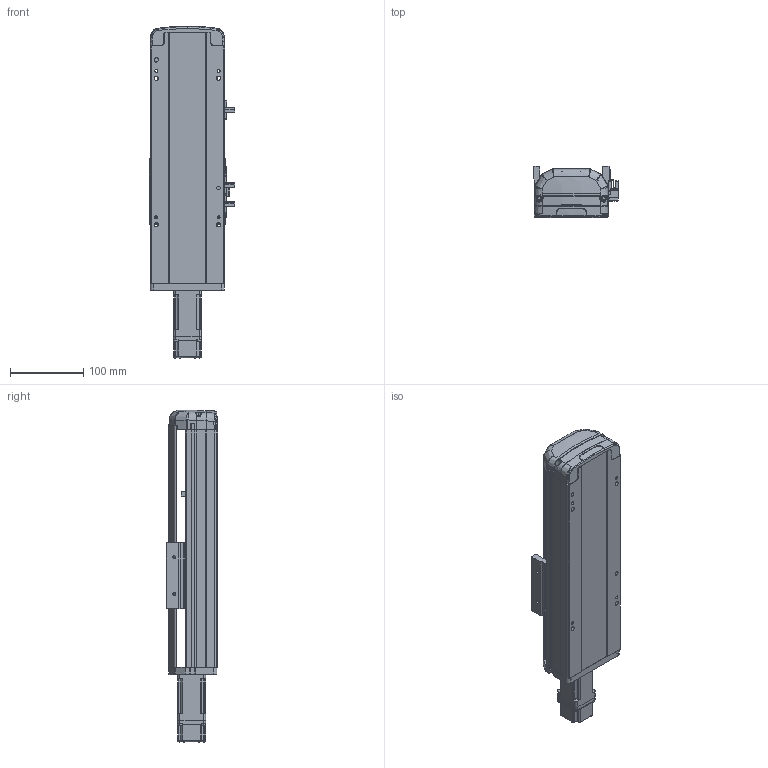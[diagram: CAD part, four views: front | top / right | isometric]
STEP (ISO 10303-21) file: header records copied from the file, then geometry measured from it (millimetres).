
FILE_DESCRIPTION (( 'STEP AP214' ), '1' );
FILE_NAME ('RTH10-XX-100-E-M10-C4.STEP', '2025-10-25T05:20:40', ( 'Microsoft' ), ( 'Microsoft' ), 'SwSTEP 2.0', 'SolidWorks 2018', '' );
FILE_SCHEMA (( 'AUTOMOTIVE_DESIGN' ));
Length unit declared in the file: millimetre
Products named in the file (9): N_RTH12-GY-001P^RTH10-XX-XX-E-M10-C4; N_OMRON EE-SX672 传感器^RTH10-XX-XX-E-M10-C4; N_RTH12-E-007P-奻裔^RTH10-XX-XX-E-M10-C4; N_RTH12-E-008-M10萇儂啣^RTH10-XX-XX-E-M10-C4; N_RTH13-L-012覜茼え俋离^RTH10-XX-XX-E-M10-C4; RTH10-XX-100-E-M10-C4; N_RTH12-GY-004-賑釱^RTH10-XX-XX-E-M10-C4; N_RTH12-E-011P-臏倰第菁釱^RTH10-XX-XX-E-M10-C4; N_P10^RTH10-XX-XX-E-M10-C4
Assembly tree (10 placements, depth 2):
  RTH10-XX-100-E-M10-C4
    N_RTH12-E-011P-臏倰第菁釱^RTH10-XX-XX-E-M10-C4
    N_RTH13-L-012覜茼え俋离^RTH10-XX-XX-E-M10-C4
    N_OMRON EE-SX672 传感器^RTH10-XX-XX-E-M10-C4  x3
    N_P10^RTH10-XX-XX-E-M10-C4
    N_RTH12-E-007P-奻裔^RTH10-XX-XX-E-M10-C4
    N_RTH12-E-008-M10萇儂啣^RTH10-XX-XX-E-M10-C4
    N_RTH12-GY-001P^RTH10-XX-XX-E-M10-C4
    N_RTH12-GY-004-賑釱^RTH10-XX-XX-E-M10-C4
Bounding box: 116.5 x 70 x 453.34 mm (x, y, z)
Volume: 1624906 mm3; surface area: 289363.4 mm2
Topology: 9 solids, 11 shells, 1892 faces, 5233 edges, 3430 vertices
Faces by surface type: plane 960, bspline 472, cylinder 425, cone 33, torus 2
Entity records: 56129 total; most frequent: CARTESIAN_POINT 22594, ORIENTED_EDGE 7546, DIRECTION 5737, EDGE_CURVE 3779, VERTEX_POINT 2474, LINE 2023, VECTOR 2023, AXIS2_PLACEMENT_3D 1857
